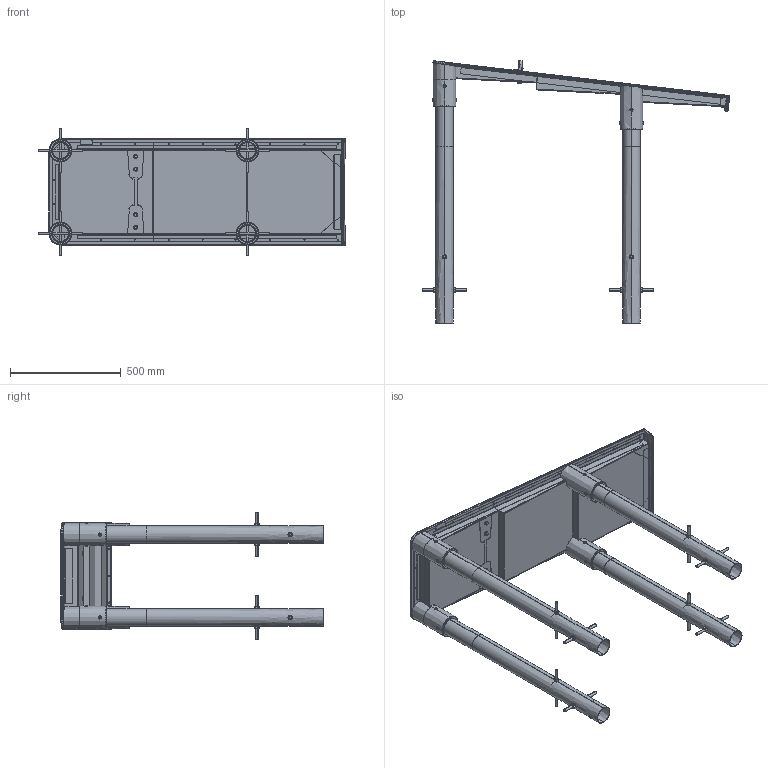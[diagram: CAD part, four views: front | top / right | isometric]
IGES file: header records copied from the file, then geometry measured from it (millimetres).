
Start section: SolidWorks IGES file using analytic representation for surfaces
Global section: file name: C:\Users\user25\Desktop\klient modele\570.204.010.012 - Waterfall CA.IGS; native system: SolidWorks 2018; preprocessor: SolidWorks 2018; author: user25; date: 210325.121434; units: millimetre
Bounding box: 1386.33 x 1187.25 x 574.39 mm (x, y, z)
Surface area: 4469254.1 mm2 (no closed solid volume)
Topology: 0 solids, 0 shells, 998 faces, 16718 edges, 16694 vertices
Faces by surface type: bspline 539, revolution 459
